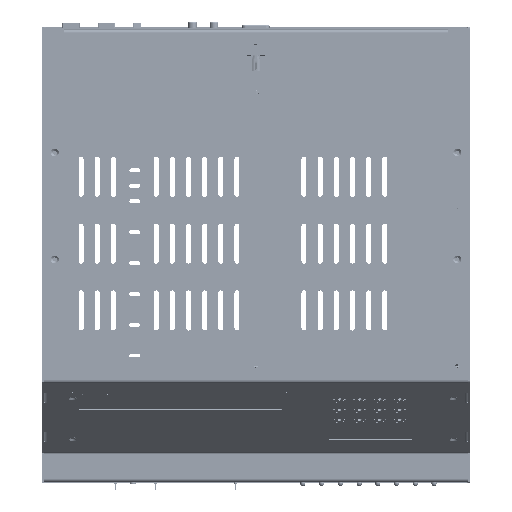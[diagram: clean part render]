
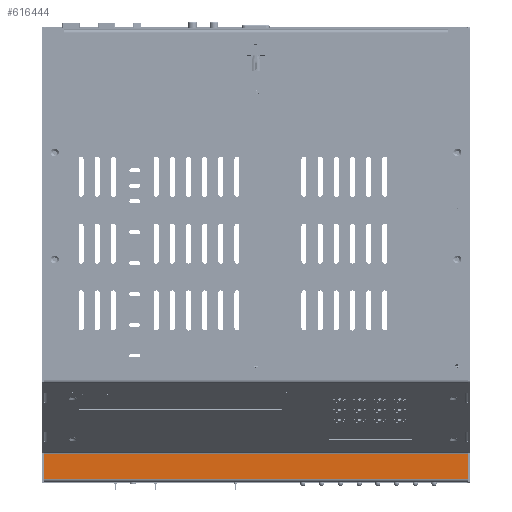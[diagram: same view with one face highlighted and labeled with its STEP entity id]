
A CAD part, top view. The second image highlights one B-rep face of the part: STEP entity #616444.
In plain terms, the highlighted planar face has unit normal (0, 0, 1).
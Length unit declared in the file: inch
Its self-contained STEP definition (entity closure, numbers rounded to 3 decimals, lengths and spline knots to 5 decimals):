
#610024 = VERTEX_POINT('',#610025);
#610025 = CARTESIAN_POINT('',(15.93,1.05999,1.5));
#610047 = CYLINDRICAL_SURFACE('',#610048,0.07);
#610048 = AXIS2_PLACEMENT_3D('',#610049,#610050,#610051);
#610049 = CARTESIAN_POINT('',(0.07,1.05999,1.57));
#610050 = DIRECTION('',(1.,0.,0.));
#610051 = DIRECTION('',(0.,0.862,
    -0.507));
#610101 = EDGE_CURVE('',#610102,#610024,#610104,.T.);
#610102 = VERTEX_POINT('',#610103);
#610103 = CARTESIAN_POINT('',(0.07,1.05999,1.5));
#610104 = SURFACE_CURVE('',#610105,(#610109,#610115),.PCURVE_S1.);
#610105 = LINE('',#610106,#610107);
#610106 = CARTESIAN_POINT('',(0.07,1.05999,1.5));
#610107 = VECTOR('',#610108,1.);
#610108 = DIRECTION('',(1.,0.,0.));
#610109 = PCURVE('',#610047,#610110);
#610110 = DEFINITIONAL_REPRESENTATION('',(#610111),#610114);
#610111 = B_SPLINE_CURVE_WITH_KNOTS('',1,(#610112,#610113),
  .UNSPECIFIED.,.F.,.F.,(2,2),(0.,15.86),.PIECEWISE_BEZIER_KNOTS.);
#610112 = CARTESIAN_POINT('',(5.245,0.));
#610113 = CARTESIAN_POINT('',(5.245,15.86));
#610114 = ( GEOMETRIC_REPRESENTATION_CONTEXT(2) 
PARAMETRIC_REPRESENTATION_CONTEXT() REPRESENTATION_CONTEXT('2D SPACE',''
  ) );
#610115 = PCURVE('',#610116,#610121);
#610116 = PLANE('',#610117);
#610117 = AXIS2_PLACEMENT_3D('',#610118,#610119,#610120);
#610118 = CARTESIAN_POINT('',(8.,0.59499,1.5));
#610119 = DIRECTION('',(0.,0.,-1.));
#610120 = DIRECTION('',(1.,0.,0.));
#610121 = DEFINITIONAL_REPRESENTATION('',(#610122),#610126);
#610122 = LINE('',#610123,#610124);
#610123 = CARTESIAN_POINT('',(-7.93,-0.465));
#610124 = VECTOR('',#610125,1.);
#610125 = DIRECTION('',(1.,0.));
#610126 = ( GEOMETRIC_REPRESENTATION_CONTEXT(2) 
PARAMETRIC_REPRESENTATION_CONTEXT() REPRESENTATION_CONTEXT('2D SPACE',''
  ) );
#610310 = PLANE('',#610311);
#610311 = AXIS2_PLACEMENT_3D('',#610312,#610313,#610314);
#610312 = CARTESIAN_POINT('',(15.93,1.05999,1.5));
#610313 = DIRECTION('',(-1.,0.,0.));
#610314 = DIRECTION('',(0.,-1.,0.));
#616444 = ADVANCED_FACE('',(#616445),#610116,.F.);
#616445 = FACE_BOUND('',#616446,.F.);
#616446 = EDGE_LOOP('',(#616447,#616448,#616471,#616497));
#616447 = ORIENTED_EDGE('',*,*,#610101,.T.);
#616448 = ORIENTED_EDGE('',*,*,#616449,.T.);
#616449 = EDGE_CURVE('',#610024,#616450,#616452,.T.);
#616450 = VERTEX_POINT('',#616451);
#616451 = CARTESIAN_POINT('',(15.93,0.13,1.5));
#616452 = SURFACE_CURVE('',#616453,(#616457,#616464),.PCURVE_S1.);
#616453 = LINE('',#616454,#616455);
#616454 = CARTESIAN_POINT('',(15.93,1.05999,1.5));
#616455 = VECTOR('',#616456,1.);
#616456 = DIRECTION('',(0.,-1.,0.));
#616457 = PCURVE('',#610116,#616458);
#616458 = DEFINITIONAL_REPRESENTATION('',(#616459),#616463);
#616459 = LINE('',#616460,#616461);
#616460 = CARTESIAN_POINT('',(7.93,-0.465));
#616461 = VECTOR('',#616462,1.);
#616462 = DIRECTION('',(0.,1.));
#616463 = ( GEOMETRIC_REPRESENTATION_CONTEXT(2) 
PARAMETRIC_REPRESENTATION_CONTEXT() REPRESENTATION_CONTEXT('2D SPACE',''
  ) );
#616464 = PCURVE('',#610310,#616465);
#616465 = DEFINITIONAL_REPRESENTATION('',(#616466),#616470);
#616466 = LINE('',#616467,#616468);
#616467 = CARTESIAN_POINT('',(0.,0.));
#616468 = VECTOR('',#616469,1.);
#616469 = DIRECTION('',(1.,0.));
#616470 = ( GEOMETRIC_REPRESENTATION_CONTEXT(2) 
PARAMETRIC_REPRESENTATION_CONTEXT() REPRESENTATION_CONTEXT('2D SPACE',''
  ) );
#616471 = ORIENTED_EDGE('',*,*,#616472,.T.);
#616472 = EDGE_CURVE('',#616450,#616473,#616475,.T.);
#616473 = VERTEX_POINT('',#616474);
#616474 = CARTESIAN_POINT('',(0.07,0.13,1.5));
#616475 = SURFACE_CURVE('',#616476,(#616479,#616486),.PCURVE_S1.);
#616476 = B_SPLINE_CURVE_WITH_KNOTS('',1,(#616477,#616478),
  .UNSPECIFIED.,.F.,.F.,(2,2),(0.,15.86),.PIECEWISE_BEZIER_KNOTS.);
#616477 = CARTESIAN_POINT('',(15.93,0.13,1.5));
#616478 = CARTESIAN_POINT('',(0.07,0.13,1.5));
#616479 = PCURVE('',#610116,#616480);
#616480 = DEFINITIONAL_REPRESENTATION('',(#616481),#616485);
#616481 = LINE('',#616482,#616483);
#616482 = CARTESIAN_POINT('',(7.93,0.465));
#616483 = VECTOR('',#616484,1.);
#616484 = DIRECTION('',(-1.,0.));
#616485 = ( GEOMETRIC_REPRESENTATION_CONTEXT(2) 
PARAMETRIC_REPRESENTATION_CONTEXT() REPRESENTATION_CONTEXT('2D SPACE',''
  ) );
#616486 = PCURVE('',#616487,#616492);
#616487 = CYLINDRICAL_SURFACE('',#616488,0.13);
#616488 = AXIS2_PLACEMENT_3D('',#616489,#616490,#616491);
#616489 = CARTESIAN_POINT('',(0.07,0.13,1.37));
#616490 = DIRECTION('',(1.,0.,0.));
#616491 = DIRECTION('',(0.,0.,-1.));
#616492 = DEFINITIONAL_REPRESENTATION('',(#616493),#616496);
#616493 = B_SPLINE_CURVE_WITH_KNOTS('',1,(#616494,#616495),
  .UNSPECIFIED.,.F.,.F.,(2,2),(0.,15.86),.PIECEWISE_BEZIER_KNOTS.);
#616494 = CARTESIAN_POINT('',(3.142,15.86));
#616495 = CARTESIAN_POINT('',(3.142,0.));
#616496 = ( GEOMETRIC_REPRESENTATION_CONTEXT(2) 
PARAMETRIC_REPRESENTATION_CONTEXT() REPRESENTATION_CONTEXT('2D SPACE',''
  ) );
#616497 = ORIENTED_EDGE('',*,*,#616498,.T.);
#616498 = EDGE_CURVE('',#616473,#610102,#616499,.T.);
#616499 = SURFACE_CURVE('',#616500,(#616504,#616511),.PCURVE_S1.);
#616500 = LINE('',#616501,#616502);
#616501 = CARTESIAN_POINT('',(0.07,0.13,1.5));
#616502 = VECTOR('',#616503,1.);
#616503 = DIRECTION('',(0.,1.,0.));
#616504 = PCURVE('',#610116,#616505);
#616505 = DEFINITIONAL_REPRESENTATION('',(#616506),#616510);
#616506 = LINE('',#616507,#616508);
#616507 = CARTESIAN_POINT('',(-7.93,0.465));
#616508 = VECTOR('',#616509,1.);
#616509 = DIRECTION('',(0.,-1.));
#616510 = ( GEOMETRIC_REPRESENTATION_CONTEXT(2) 
PARAMETRIC_REPRESENTATION_CONTEXT() REPRESENTATION_CONTEXT('2D SPACE',''
  ) );
#616511 = PCURVE('',#616512,#616517);
#616512 = PLANE('',#616513);
#616513 = AXIS2_PLACEMENT_3D('',#616514,#616515,#616516);
#616514 = CARTESIAN_POINT('',(0.07,0.13,1.5));
#616515 = DIRECTION('',(1.,0.,0.));
#616516 = DIRECTION('',(0.,1.,0.));
#616517 = DEFINITIONAL_REPRESENTATION('',(#616518),#616522);
#616518 = LINE('',#616519,#616520);
#616519 = CARTESIAN_POINT('',(0.,0.));
#616520 = VECTOR('',#616521,1.);
#616521 = DIRECTION('',(1.,0.));
#616522 = ( GEOMETRIC_REPRESENTATION_CONTEXT(2) 
PARAMETRIC_REPRESENTATION_CONTEXT() REPRESENTATION_CONTEXT('2D SPACE',''
  ) );
